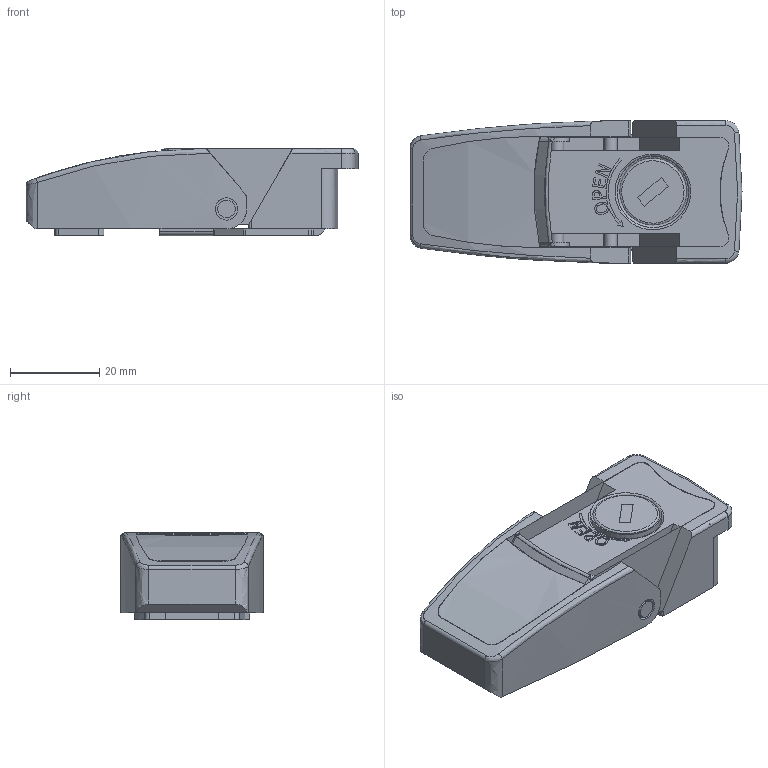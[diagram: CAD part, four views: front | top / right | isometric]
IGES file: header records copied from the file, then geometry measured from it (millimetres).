
Global section: file name: DR_C-CS2-K-316; native system: Autodesk Inventor 2015; preprocessor: unknown; author: Administrator; date: 20180301.103221; units: millimetre
Bounding box: 74.5 x 32 x 19.6 mm (x, y, z)
Volume: 16033.5 mm3; surface area: 18901 mm2
Topology: 7 solids, 7 shells, 327 faces, 891 edges, 588 vertices
Faces by surface type: bspline 327
